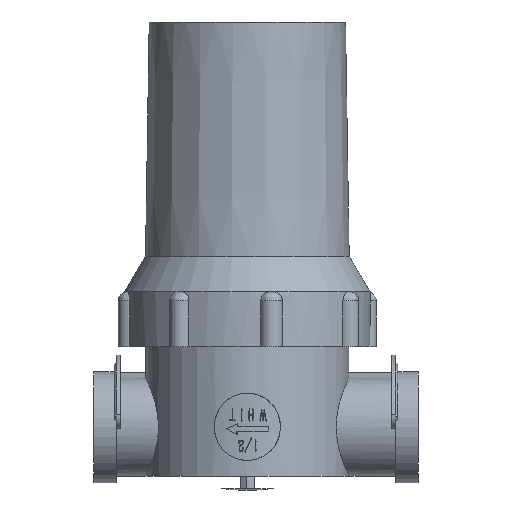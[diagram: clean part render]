
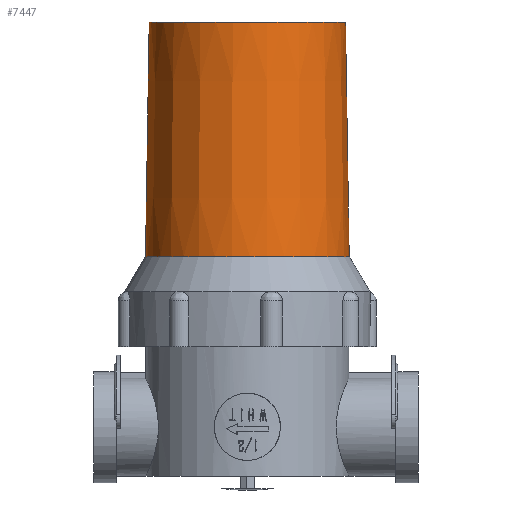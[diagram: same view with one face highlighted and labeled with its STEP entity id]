
A CAD part, left-side view. The second image highlights one B-rep face of the part: STEP entity #7447.
In plain terms, the highlighted conical face has half-angle 0.9 degrees and reference radius 28.843 mm.
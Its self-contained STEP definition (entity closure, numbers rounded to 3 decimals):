
#60=CONICAL_SURFACE('',#7943,28.843,0.016);
#452=CIRCLE('',#7944,28.843);
#453=CIRCLE('',#7945,27.8);
#454=CIRCLE('',#7946,27.8);
#455=CIRCLE('',#7947,28.843);
#892=FACE_OUTER_BOUND('',#1241,.T.);
#1241=EDGE_LOOP('',(#6357,#6358,#6359,#6360,#6361,#6362));
#1766=LINE('',#26698,#2263);
#2263=VECTOR('',#9220,28.843);
#3491=VERTEX_POINT('',#26694);
#3492=VERTEX_POINT('',#26695);
#3493=VERTEX_POINT('',#26697);
#3494=VERTEX_POINT('',#26699);
#4679=EDGE_CURVE('',#3491,#3492,#452,.T.);
#4680=EDGE_CURVE('',#3492,#3493,#1766,.T.);
#4681=EDGE_CURVE('',#3494,#3493,#453,.T.);
#4682=EDGE_CURVE('',#3493,#3494,#454,.T.);
#4683=EDGE_CURVE('',#3492,#3491,#455,.T.);
#6357=ORIENTED_EDGE('',*,*,#4679,.T.);
#6358=ORIENTED_EDGE('',*,*,#4680,.T.);
#6359=ORIENTED_EDGE('',*,*,#4681,.F.);
#6360=ORIENTED_EDGE('',*,*,#4682,.F.);
#6361=ORIENTED_EDGE('',*,*,#4680,.F.);
#6362=ORIENTED_EDGE('',*,*,#4683,.T.);
#7447=ADVANCED_FACE('',(#892),#60,.T.);
#7943=AXIS2_PLACEMENT_3D('',#26693,#9216,#9217);
#7944=AXIS2_PLACEMENT_3D('',#26696,#9218,#9219);
#7945=AXIS2_PLACEMENT_3D('',#26700,#9221,#9222);
#7946=AXIS2_PLACEMENT_3D('',#26701,#9223,#9224);
#7947=AXIS2_PLACEMENT_3D('',#26702,#9225,#9226);
#9216=DIRECTION('center_axis',(0.,0.,
-1.));
#9217=DIRECTION('ref_axis',(-0.98,-0.197,0.));
#9218=DIRECTION('center_axis',(0.,0.,
1.));
#9219=DIRECTION('ref_axis',(0.98,0.197,0.));
#9220=DIRECTION('',(-0.015,-0.003,1.));
#9221=DIRECTION('center_axis',(0.,0.,
1.));
#9222=DIRECTION('ref_axis',(0.98,0.197,0.));
#9223=DIRECTION('center_axis',(0.,0.,
1.));
#9224=DIRECTION('ref_axis',(0.98,0.197,0.));
#9225=DIRECTION('center_axis',(0.,0.,
1.));
#9226=DIRECTION('ref_axis',(0.98,0.197,0.));
#26693=CARTESIAN_POINT('Origin',(4.529,-4.873,128.85));
#26694=CARTESIAN_POINT('',(-23.747,-10.568,128.85));
#26695=CARTESIAN_POINT('',(32.804,0.821,128.85));
#26696=CARTESIAN_POINT('Origin',(4.529,-4.873,128.85));
#26697=CARTESIAN_POINT('',(31.781,0.615,195.25));
#26698=CARTESIAN_POINT('',(32.804,0.821,128.85));
#26699=CARTESIAN_POINT('',(-22.724,-10.362,195.25));
#26700=CARTESIAN_POINT('Origin',(4.529,-4.873,195.25));
#26701=CARTESIAN_POINT('Origin',(4.529,-4.873,195.25));
#26702=CARTESIAN_POINT('Origin',(4.529,-4.873,128.85));
